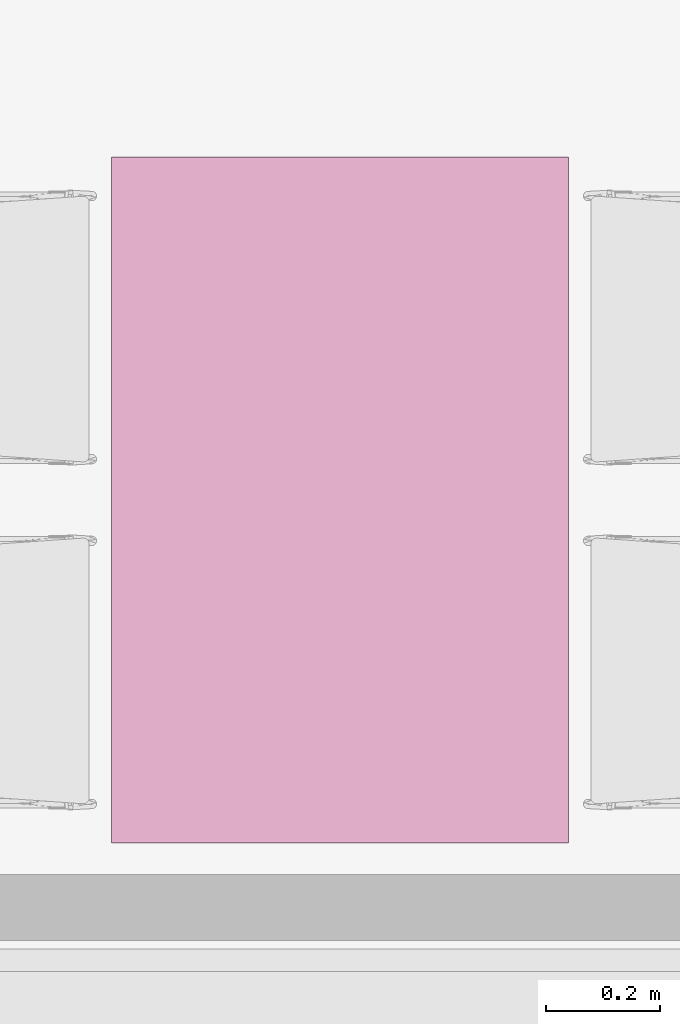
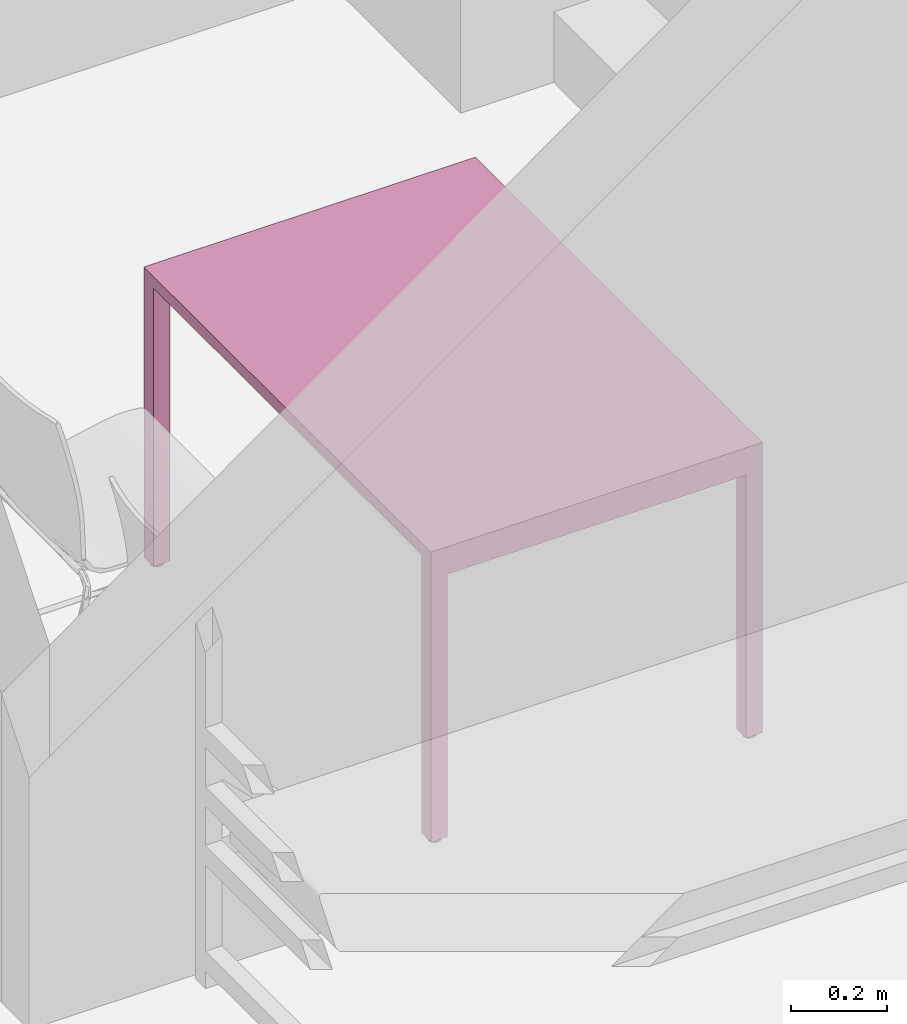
# One storey, part 43 of 46: 1 furnishing.
"""IFC2X3 building model written with IfcOpenShell, lengths in millimetres."""

from ifc_helpers import new_model, entity, si_unit, converted_unit, derived_unit, direction, frame, frame_2d, origin, origin_2d_with_axis, place, context, subcontext, project, spatial, polyline, rectangle, circle, outline, extrude, source, transform, mapped, material, material_list, type_object, type_shapes, element, save


model = new_model("IFC2X3")

# Units and contexts
model_context = context("Model", 3, precision=0.01, world=origin(), true_north=direction((6.12303176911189e-17, 1.0)))
body_context = subcontext(model_context, "Body", "Model", "MODEL_VIEW")
ifc_project = project(units=[si_unit("LENGTHUNIT", "METRE", prefix="MILLI"), si_unit("AREAUNIT", "SQUARE_METRE"), si_unit("VOLUMEUNIT", "CUBIC_METRE"), converted_unit("PLANEANGLEUNIT", "DEGREE", entity("IfcRatioMeasure", 0.0174532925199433), si_unit("PLANEANGLEUNIT", "RADIAN"), dimensions=[0, 0, 0, 0, 0, 0, 0]), si_unit("MASSUNIT", "GRAM", prefix="KILO"), derived_unit("MASSDENSITYUNIT", [(si_unit("MASSUNIT", "GRAM", prefix="KILO"), 1), (si_unit("LENGTHUNIT", "METRE"), -3)]), si_unit("TIMEUNIT", "SECOND"), si_unit("FREQUENCYUNIT", "HERTZ"), si_unit("THERMODYNAMICTEMPERATUREUNIT", "DEGREE_CELSIUS"), derived_unit("THERMALTRANSMITTANCEUNIT", [(si_unit("MASSUNIT", "GRAM", prefix="KILO"), 1), (si_unit("THERMODYNAMICTEMPERATUREUNIT", "KELVIN"), -1), (si_unit("TIMEUNIT", "SECOND"), -3)]), derived_unit("VOLUMETRICFLOWRATEUNIT", [(si_unit("LENGTHUNIT", "METRE"), 3), (si_unit("TIMEUNIT", "SECOND"), -1)]), si_unit("ELECTRICCURRENTUNIT", "AMPERE"), si_unit("ELECTRICVOLTAGEUNIT", "VOLT"), si_unit("POWERUNIT", "WATT"), si_unit("FORCEUNIT", "NEWTON", prefix="KILO"), si_unit("ILLUMINANCEUNIT", "LUX"), si_unit("LUMINOUSFLUXUNIT", "LUMEN"), si_unit("LUMINOUSINTENSITYUNIT", "CANDELA"), derived_unit("USERDEFINED", [(si_unit("MASSUNIT", "GRAM", prefix="KILO"), -1), (si_unit("LENGTHUNIT", "METRE"), -2), (si_unit("TIMEUNIT", "SECOND"), 3), (si_unit("LUMINOUSFLUXUNIT", "LUMEN"), 1)]), derived_unit("LINEARVELOCITYUNIT", [(si_unit("LENGTHUNIT", "METRE"), 1), (si_unit("TIMEUNIT", "SECOND"), -1)]), si_unit("PRESSUREUNIT", "PASCAL"), derived_unit("USERDEFINED", [(si_unit("LENGTHUNIT", "METRE"), -2), (si_unit("MASSUNIT", "GRAM", prefix="KILO"), 1), (si_unit("TIMEUNIT", "SECOND"), -2)]), derived_unit("LINEARFORCEUNIT", [(si_unit("MASSUNIT", "GRAM", prefix="KILO"), 1), (si_unit("LENGTHUNIT", "METRE"), 1), (si_unit("TIMEUNIT", "SECOND"), -2), (si_unit("LENGTHUNIT", "METRE"), -1)]), derived_unit("PLANARFORCEUNIT", [(si_unit("MASSUNIT", "GRAM", prefix="KILO"), 1), (si_unit("LENGTHUNIT", "METRE"), 1), (si_unit("TIMEUNIT", "SECOND"), -2), (si_unit("LENGTHUNIT", "METRE"), -2)])], contexts=[model_context])

# Site, building, storey, space
site_placement = place(None, origin())
site = spatial("IfcSite", under=ifc_project, at=site_placement, Name="Default", CompositionType="ELEMENT")
building_placement = place(site_placement, origin())
building = spatial("IfcBuilding", under=site, at=building_placement, Name="SMA ARH", CompositionType="ELEMENT")
storey_placement = place(building_placement, frame((0.0, 0.0, 9910.0)))
storey = spatial("IfcBuildingStorey", under=building, at=storey_placement, Name="4 Korrus", CompositionType="ELEMENT", Elevation=9909.9999999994)
space_placement = place(storey_placement, origin())
space = spatial("IfcSpace", under=storey, at=space_placement, Name="4-3", CompositionType="ELEMENT", InteriorOrExteriorSpace="INTERNAL")

# Furnishing
ifc_material_1 = material(Name="Metal - Stud Layer")
ifc_material_2 = material(Name="<Unnamed>")
ifc_material_list = material_list([ifc_material_1, ifc_material_2])
furniture_type = type_object("IfcFurnitureType", Name="laud_1200x800:laud_1200x800", material=ifc_material_list)
shared_shape = source(origin(), body_context, "Body", "SweptSolid", [
    extrude(rectangle(XDim=800.0, YDim=1200.0, at=origin_2d_with_axis()), frame((-150.0, 550.0, 720.0), z_axis=(0.0, 0.0, 1.0), x_axis=(-1.0, 0.0, 0.0)), (0.0, 0.0, 1.0), 29.9999999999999),
    extrude(outline(polyline([(-400.0, -365.0), (400.0, -365.0), (400.0, 345.0), (360.0, 345.0), (360.0, -325.0), (-360.0, -325.0), (-360.0, 345.0), (-400.0, 345.0), (-400.0, -365.0)])), frame((-150.0, -50.0, 355.0), z_axis=(0.0, 1.0, 0.0), x_axis=(1.0, 0.0, 0.0)), (0.0, 0.0, 1.0), 40.0000000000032),
    extrude(outline(polyline([(-400.0, -365.0), (400.0, -365.0), (400.0, 345.0), (360.0, 345.0), (360.0, -325.0), (-360.0, -325.0), (-360.0, 345.0), (-400.0, 345.0), (-400.0, -365.0)])), frame((-150.0, 1110.0, 355.0), z_axis=(0.0, 1.0, 0.0), x_axis=(1.0, 0.0, 0.0)), (0.0, 0.0, 1.0), 40.0000000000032),
    extrude(circle(Radius=15.0, at=frame_2d((0.0, 5.07593966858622e-14), x_axis=(1.0, 0.0))), frame((-529.847171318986, -29.9550233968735, 0.0)), (0.0, 0.0, 1.0), 10.0),
    extrude(circle(Radius=15.0, at=origin_2d_with_axis()), frame((-529.847171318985, 1129.95502339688, 0.0)), (0.0, 0.0, 1.0), 10.0),
    extrude(circle(Radius=15.0, at=origin_2d_with_axis()), frame((230.152828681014, -29.9550233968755, 0.0)), (0.0, 0.0, 1.0), 10.0),
    extrude(circle(Radius=15.0, at=origin_2d_with_axis()), frame((230.152828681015, 1129.95502339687, 0.0)), (0.0, 0.0, 1.0), 10.0),
])
type_shapes(furniture_type, [shared_shape])
furnishing_placement = place(space_placement, frame((37343.2995004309, 3260.49999999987, 0.0)))
element("IfcFurnishingElement", 1, at=furnishing_placement, inside=space, type_object=furniture_type, material=ifc_material_1, Name="laud_1200x800:laud_1200x800", ObjectType="laud_1200x800:laud_1200x800", context=body_context, shape_type="MappedRepresentation", body=[
    mapped(shared_shape, transform((0.0, 0.0, 0.0), scale=1.0)),
])

save(model, "model.ifc")
